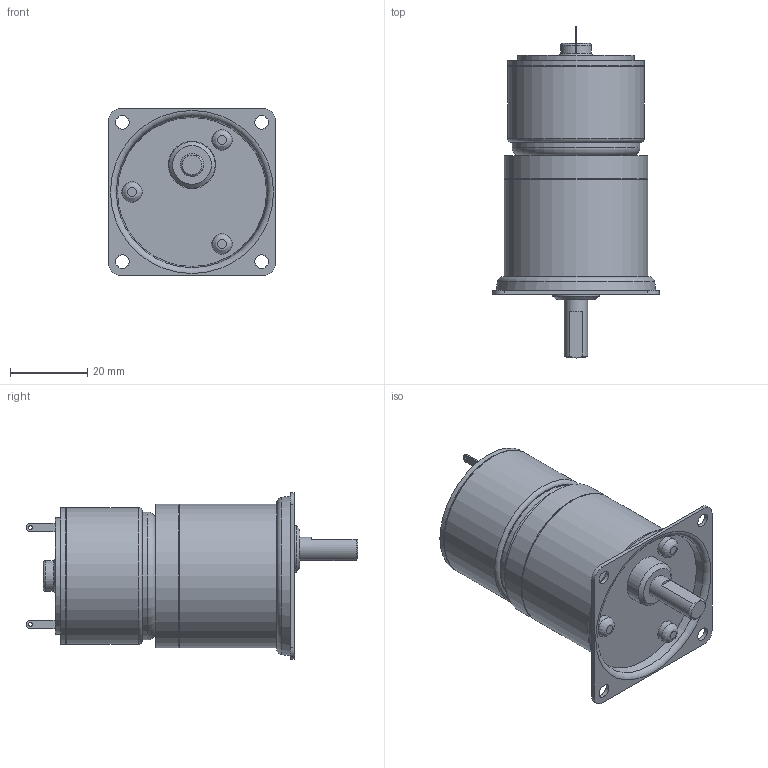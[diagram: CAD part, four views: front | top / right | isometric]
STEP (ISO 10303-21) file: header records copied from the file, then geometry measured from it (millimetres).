
FILE_DESCRIPTION((''),'2;1');
FILE_NAME('C:\Documents and Settings\SSEGAWA\デスクトップ\TP-3526G-PHM-5.STP','2013-07-09T17:44:48',('SSEGAWA'),(''),'Autodesk Inventor 2010','Autodesk Inventor 2010','');
FILE_SCHEMA(('CONFIG_CONTROL_DESIGN'));
Length unit declared in the file: millimetre
Products named in the file (5): tp_3526g_phm_5; phm_5; hm_5; □43; tp_3526g
Assembly tree (4 placements, depth 3):
  tp_3526g_phm_5
    phm_5
      hm_5
      □43
    tp_3526g
Bounding box: 43 x 85.8 x 43 mm (x, y, z)
Volume: 61622.3 mm3; surface area: 15869.3 mm2
Topology: 3 solids, 3 shells, 105 faces, 225 edges, 148 vertices
Faces by surface type: plane 40, cylinder 30, bspline 24, torus 6, cone 5
Full cylindrical faces by diameter (mm): 2 x1, 2.4 x1, 5 x2, 5.3 x3, 6 x1, 8 x1, 10 x1, 12 x1, 12.2 x1, 30 x1, 33 x1, 35 x1, 35.4 x2, 36.6 x1, 37 x2
Entity records: 3045 total; most frequent: CARTESIAN_POINT 963, DIRECTION 431, ORIENTED_EDGE 298, EDGE_LOOP 195, AXIS2_PLACEMENT_3D 194, EDGE_CURVE 149, VERTEX_POINT 126, FACE_OUTER_BOUND 105
